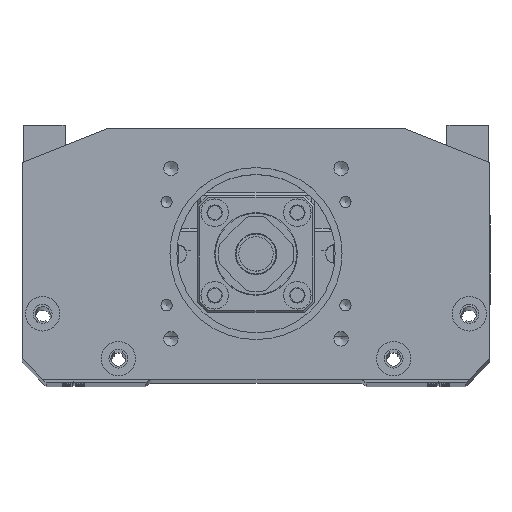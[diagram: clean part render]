
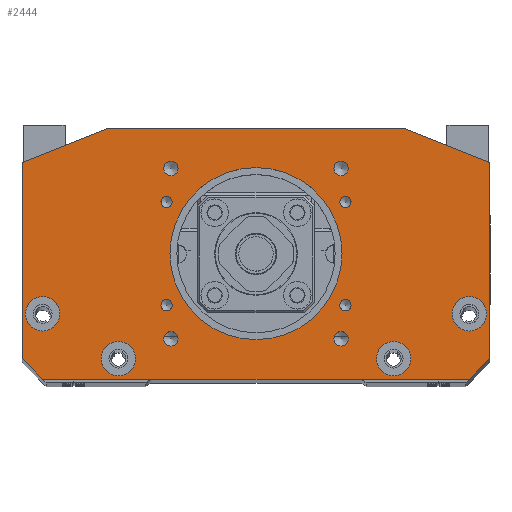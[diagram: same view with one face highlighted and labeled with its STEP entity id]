
A CAD part, top view. The second image highlights one B-rep face of the part: STEP entity #2444.
In plain terms, the highlighted planar face has unit normal (0, 0, 1).
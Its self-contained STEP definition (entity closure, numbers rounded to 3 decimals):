
#478=FACE_BOUND('',#4239,.T.);
#479=FACE_BOUND('',#4240,.T.);
#480=FACE_BOUND('',#4241,.T.);
#481=FACE_BOUND('',#4242,.T.);
#482=FACE_BOUND('',#4243,.T.);
#483=FACE_BOUND('',#4244,.T.);
#484=FACE_BOUND('',#4245,.T.);
#485=FACE_BOUND('',#4246,.T.);
#486=FACE_BOUND('',#4247,.T.);
#487=FACE_BOUND('',#4248,.T.);
#488=FACE_BOUND('',#4249,.T.);
#489=FACE_BOUND('',#4250,.T.);
#490=FACE_BOUND('',#4251,.T.);
#491=FACE_BOUND('',#4252,.T.);
#1128=PLANE('',#14676);
#1746=CIRCLE('',#14663,1.65);
#1747=CIRCLE('',#14664,1.65);
#1748=CIRCLE('',#14665,1.65);
#1749=CIRCLE('',#14666,1.65);
#1750=CIRCLE('',#14667,2.1);
#1751=CIRCLE('',#14668,2.1);
#1752=CIRCLE('',#14669,2.1);
#1753=CIRCLE('',#14670,2.1);
#1754=CIRCLE('',#14671,25.);
#1755=CIRCLE('',#14672,5.);
#1756=CIRCLE('',#14673,5.);
#1757=CIRCLE('',#14674,5.);
#1758=CIRCLE('',#14675,5.);
#2444=ADVANCED_FACE('9',(#478,#479,#480,#481,#482,#483,#484,#485,#486,#487,
#488,#489,#490,#491),#1128,.T.);
#4239=EDGE_LOOP('',(#6949));
#4240=EDGE_LOOP('',(#6950));
#4241=EDGE_LOOP('',(#6951));
#4242=EDGE_LOOP('',(#6952));
#4243=EDGE_LOOP('',(#6953));
#4244=EDGE_LOOP('',(#6954));
#4245=EDGE_LOOP('',(#6955));
#4246=EDGE_LOOP('',(#6956));
#4247=EDGE_LOOP('',(#6957));
#4248=EDGE_LOOP('',(#6958));
#4249=EDGE_LOOP('',(#6959));
#4250=EDGE_LOOP('',(#6960));
#4251=EDGE_LOOP('',(#6961));
#4252=EDGE_LOOP('',(#6962,#6963,#6964,#6965,#6966,#6967,#6968,#6969));
#6949=ORIENTED_EDGE('',*,*,#11272,.F.);
#6950=ORIENTED_EDGE('',*,*,#11273,.F.);
#6951=ORIENTED_EDGE('',*,*,#11274,.F.);
#6952=ORIENTED_EDGE('',*,*,#11275,.F.);
#6953=ORIENTED_EDGE('',*,*,#11276,.F.);
#6954=ORIENTED_EDGE('',*,*,#11277,.F.);
#6955=ORIENTED_EDGE('',*,*,#11278,.F.);
#6956=ORIENTED_EDGE('',*,*,#11279,.F.);
#6957=ORIENTED_EDGE('',*,*,#11280,.F.);
#6958=ORIENTED_EDGE('',*,*,#11281,.F.);
#6959=ORIENTED_EDGE('',*,*,#11282,.F.);
#6960=ORIENTED_EDGE('',*,*,#11283,.F.);
#6961=ORIENTED_EDGE('',*,*,#11284,.F.);
#6962=ORIENTED_EDGE('',*,*,#10424,.F.);
#6963=ORIENTED_EDGE('',*,*,#11242,.T.);
#6964=ORIENTED_EDGE('',*,*,#11285,.F.);
#6965=ORIENTED_EDGE('',*,*,#11245,.T.);
#6966=ORIENTED_EDGE('',*,*,#10319,.F.);
#6967=ORIENTED_EDGE('',*,*,#10371,.T.);
#6968=ORIENTED_EDGE('',*,*,#10386,.F.);
#6969=ORIENTED_EDGE('',*,*,#10400,.T.);
#8941=VERTEX_POINT('',#20187);
#8942=VERTEX_POINT('',#20189);
#8980=VERTEX_POINT('',#20287);
#8990=VERTEX_POINT('',#20315);
#8998=VERTEX_POINT('',#20340);
#9018=VERTEX_POINT('',#20386);
#9539=VERTEX_POINT('',#24377);
#9541=VERTEX_POINT('',#24383);
#9559=VERTEX_POINT('',#24440);
#9560=VERTEX_POINT('',#24442);
#9561=VERTEX_POINT('',#24444);
#9562=VERTEX_POINT('',#24446);
#9563=VERTEX_POINT('',#24448);
#9564=VERTEX_POINT('',#24450);
#9565=VERTEX_POINT('',#24452);
#9566=VERTEX_POINT('',#24454);
#9567=VERTEX_POINT('',#24456);
#9568=VERTEX_POINT('',#24458);
#9569=VERTEX_POINT('',#24460);
#9570=VERTEX_POINT('',#24462);
#9571=VERTEX_POINT('',#24464);
#10319=EDGE_CURVE('',#8941,#8942,#12027,.T.);
#10371=EDGE_CURVE('',#8941,#8980,#12069,.T.);
#10386=EDGE_CURVE('',#8990,#8980,#12082,.T.);
#10400=EDGE_CURVE('',#8990,#8998,#12094,.T.);
#10424=EDGE_CURVE('',#9018,#8998,#12116,.T.);
#11242=EDGE_CURVE('',#9018,#9539,#12534,.T.);
#11245=EDGE_CURVE('',#9541,#8942,#12537,.T.);
#11272=EDGE_CURVE('',#9559,#9559,#1746,.T.);
#11273=EDGE_CURVE('',#9560,#9560,#1747,.T.);
#11274=EDGE_CURVE('',#9561,#9561,#1748,.T.);
#11275=EDGE_CURVE('',#9562,#9562,#1749,.T.);
#11276=EDGE_CURVE('',#9563,#9563,#1750,.T.);
#11277=EDGE_CURVE('',#9564,#9564,#1751,.T.);
#11278=EDGE_CURVE('',#9565,#9565,#1752,.T.);
#11279=EDGE_CURVE('',#9566,#9566,#1753,.T.);
#11280=EDGE_CURVE('',#9567,#9567,#1754,.T.);
#11281=EDGE_CURVE('',#9568,#9568,#1755,.T.);
#11282=EDGE_CURVE('',#9569,#9569,#1756,.T.);
#11283=EDGE_CURVE('',#9570,#9570,#1757,.T.);
#11284=EDGE_CURVE('',#9571,#9571,#1758,.T.);
#11285=EDGE_CURVE('',#9541,#9539,#12551,.T.);
#12027=LINE('',#20188,#12988);
#12069=LINE('',#20288,#13030);
#12082=LINE('',#20316,#13043);
#12094=LINE('',#20341,#13055);
#12116=LINE('',#20387,#13077);
#12534=LINE('',#24376,#13495);
#12537=LINE('',#24382,#13498);
#12551=LINE('',#24465,#13512);
#12988=VECTOR('',#15760,1.);
#13030=VECTOR('',#15840,1.);
#13043=VECTOR('',#15863,1.);
#13055=VECTOR('',#15885,1.);
#13077=VECTOR('',#15915,1.);
#13495=VECTOR('',#17659,1.);
#13498=VECTOR('',#17664,1.);
#13512=VECTOR('',#17754,1.);
#14663=AXIS2_PLACEMENT_3D('',#24439,#17728,#17729);
#14664=AXIS2_PLACEMENT_3D('',#24441,#17730,#17731);
#14665=AXIS2_PLACEMENT_3D('',#24443,#17732,#17733);
#14666=AXIS2_PLACEMENT_3D('',#24445,#17734,#17735);
#14667=AXIS2_PLACEMENT_3D('',#24447,#17736,#17737);
#14668=AXIS2_PLACEMENT_3D('',#24449,#17738,#17739);
#14669=AXIS2_PLACEMENT_3D('',#24451,#17740,#17741);
#14670=AXIS2_PLACEMENT_3D('',#24453,#17742,#17743);
#14671=AXIS2_PLACEMENT_3D('',#24455,#17744,#17745);
#14672=AXIS2_PLACEMENT_3D('',#24457,#17746,#17747);
#14673=AXIS2_PLACEMENT_3D('',#24459,#17748,#17749);
#14674=AXIS2_PLACEMENT_3D('',#24461,#17750,#17751);
#14675=AXIS2_PLACEMENT_3D('',#24463,#17752,#17753);
#14676=AXIS2_PLACEMENT_3D('',#24466,#17755,#17756);
#15760=DIRECTION('',(0.,1.,0.));
#15840=DIRECTION('',(0.707,-0.707,0.));
#15863=DIRECTION('',(-1.,0.,0.));
#15885=DIRECTION('',(0.707,0.707,0.));
#15915=DIRECTION('',(0.,-1.,0.));
#17659=DIRECTION('',(-0.928,0.371,0.));
#17664=DIRECTION('',(-0.928,-0.371,0.));
#17728=DIRECTION('',(0.,0.,1.));
#17729=DIRECTION('',(1.,0.,0.));
#17730=DIRECTION('',(0.,0.,1.));
#17731=DIRECTION('',(1.,0.,0.));
#17732=DIRECTION('',(0.,0.,1.));
#17733=DIRECTION('',(1.,0.,0.));
#17734=DIRECTION('',(0.,0.,1.));
#17735=DIRECTION('',(1.,0.,0.));
#17736=DIRECTION('',(0.,0.,1.));
#17737=DIRECTION('',(1.,0.,0.));
#17738=DIRECTION('',(0.,0.,1.));
#17739=DIRECTION('',(1.,0.,0.));
#17740=DIRECTION('',(0.,0.,1.));
#17741=DIRECTION('',(1.,0.,0.));
#17742=DIRECTION('',(0.,0.,1.));
#17743=DIRECTION('',(1.,0.,0.));
#17744=DIRECTION('',(0.,0.,1.));
#17745=DIRECTION('',(1.,0.,0.));
#17746=DIRECTION('',(0.,0.,1.));
#17747=DIRECTION('',(1.,0.,0.));
#17748=DIRECTION('',(0.,0.,1.));
#17749=DIRECTION('',(1.,0.,0.));
#17750=DIRECTION('',(0.,0.,1.));
#17751=DIRECTION('',(1.,0.,0.));
#17752=DIRECTION('',(0.,0.,1.));
#17753=DIRECTION('',(1.,0.,0.));
#17754=DIRECTION('',(1.,0.,0.));
#17755=DIRECTION('',(0.,0.,1.));
#17756=DIRECTION('',(1.,0.,0.));
#20187=CARTESIAN_POINT('',(-68.,6.,180.));
#20188=CARTESIAN_POINT('',(-68.,0.,180.));
#20189=CARTESIAN_POINT('',(-68.,63.,180.));
#20287=CARTESIAN_POINT('',(-62.,0.,180.));
#20288=CARTESIAN_POINT('',(-49.25,-12.75,180.));
#20315=CARTESIAN_POINT('',(62.,0.,180.));
#20316=CARTESIAN_POINT('',(68.,0.,180.));
#20340=CARTESIAN_POINT('',(68.,6.,180.));
#20341=CARTESIAN_POINT('',(49.25,-12.75,180.));
#20386=CARTESIAN_POINT('',(68.,63.,180.));
#20387=CARTESIAN_POINT('',(68.,0.,180.));
#24376=CARTESIAN_POINT('',(18.517,82.793,180.));
#24377=CARTESIAN_POINT('',(43.,73.,180.));
#24382=CARTESIAN_POINT('',(-18.517,82.793,180.));
#24383=CARTESIAN_POINT('',(-43.,73.,180.));
#24439=CARTESIAN_POINT('',(25.981,51.5,180.));
#24440=CARTESIAN_POINT('',(27.631,51.5,180.));
#24441=CARTESIAN_POINT('',(25.981,21.5,180.));
#24442=CARTESIAN_POINT('',(27.631,21.5,180.));
#24443=CARTESIAN_POINT('',(-25.981,21.5,180.));
#24444=CARTESIAN_POINT('',(-24.331,21.5,180.));
#24445=CARTESIAN_POINT('',(-25.981,51.5,180.));
#24446=CARTESIAN_POINT('',(-24.331,51.5,180.));
#24447=CARTESIAN_POINT('',(-24.749,61.249,180.));
#24448=CARTESIAN_POINT('',(-22.649,61.249,180.));
#24449=CARTESIAN_POINT('',(24.749,61.249,180.));
#24450=CARTESIAN_POINT('',(26.849,61.249,180.));
#24451=CARTESIAN_POINT('',(24.749,11.751,180.));
#24452=CARTESIAN_POINT('',(26.849,11.751,180.));
#24453=CARTESIAN_POINT('',(-24.749,11.751,180.));
#24454=CARTESIAN_POINT('',(-22.649,11.751,180.));
#24455=CARTESIAN_POINT('',(0.,36.5,180.));
#24456=CARTESIAN_POINT('',(25.,36.5,180.));
#24457=CARTESIAN_POINT('',(-62.,19.,180.));
#24458=CARTESIAN_POINT('',(-57.,19.,180.));
#24459=CARTESIAN_POINT('',(62.,19.,180.));
#24460=CARTESIAN_POINT('',(67.,19.,180.));
#24461=CARTESIAN_POINT('',(-40.,6.,180.));
#24462=CARTESIAN_POINT('',(-35.,6.,180.));
#24463=CARTESIAN_POINT('',(40.,6.,180.));
#24464=CARTESIAN_POINT('',(45.,6.,180.));
#24465=CARTESIAN_POINT('',(68.,73.,180.));
#24466=CARTESIAN_POINT('',(0.,36.5,180.));
